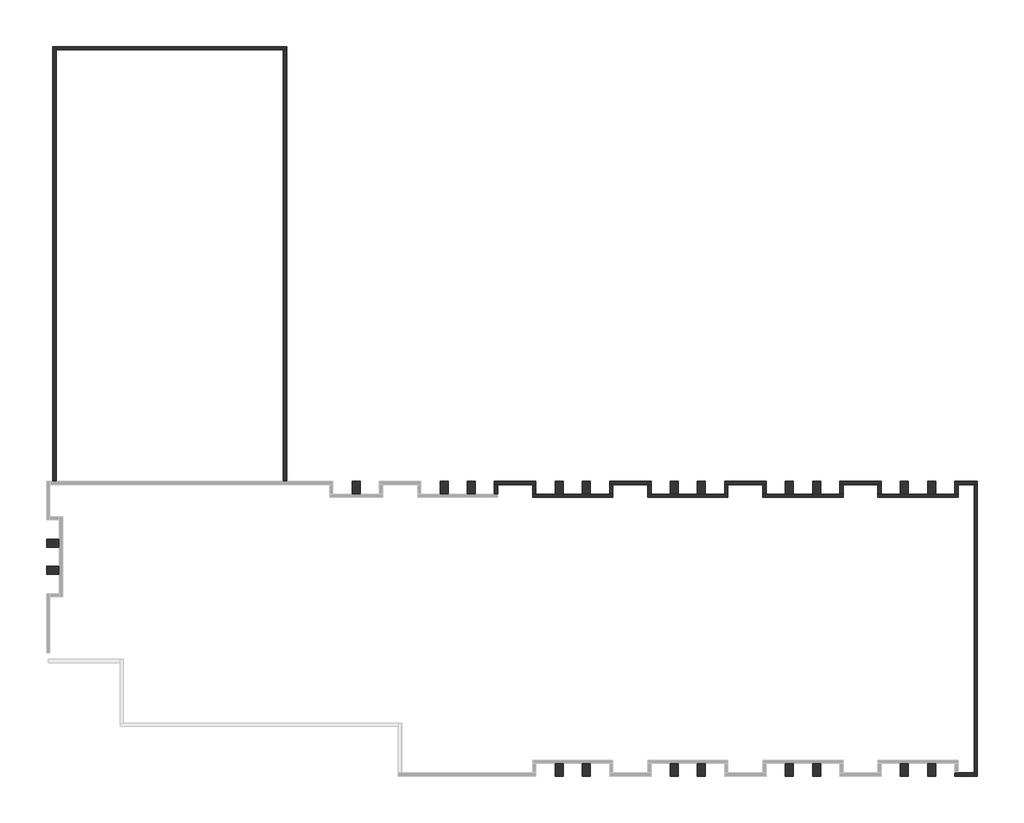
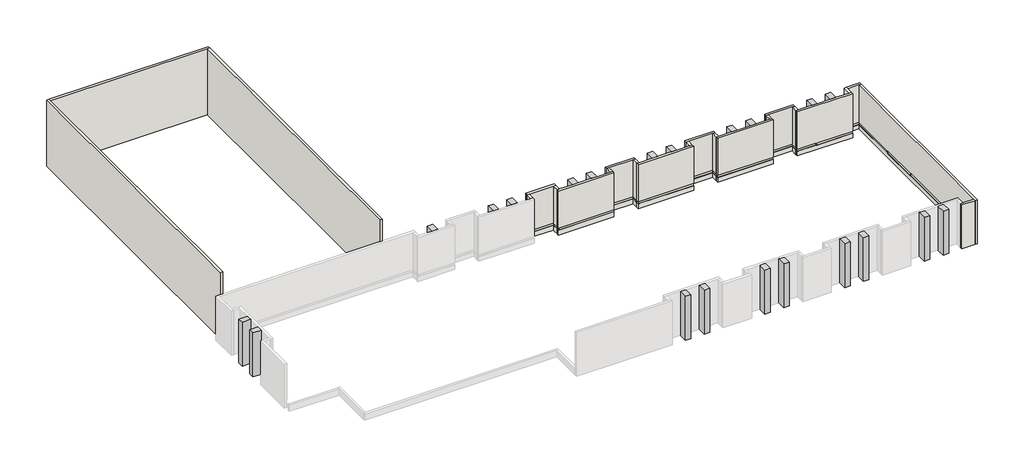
# One storey, part 2 of 2: 23 walls, 21 columns.
"""IFC4 building model written with IfcOpenShell, lengths in millimetres."""

from ifc_helpers import new_model, si_unit, frame, origin, place, context, project, spatial, polyline, outline, extrude, faceted_brep, element, save

model = new_model("IFC4")

# Units and contexts
model_context = context("Model", 3, world=origin())
ifc_project = project(units=[si_unit("LENGTHUNIT", "METRE", prefix="MILLI")], contexts=[model_context])

# Site, building, storey
site = spatial("IfcSite", under=ifc_project)
building = spatial("IfcBuilding", under=site)
storey = spatial("IfcBuildingStorey", under=building, Name="室外地坪", Elevation=-600.0)

# Columns
placement = place(None, origin())
element("IfcColumn", 1, ObjectType="矩形建筑柱 : 500 x 1000 mm", at=placement, inside=storey, context=model_context, shape_type="SweptSolid", body=[
    extrude(outline(polyline([(-27230.2182017, -7281.7926211), (-27230.2182017, -6781.7926211), (-26440.2182017, -6781.7926211), (-26440.2182017, -7281.7926211), (-27230.2182017, -7281.7926211)])), frame((0.0, 0.0, -600.0), z_axis=(0.0, 0.0, 1.0), x_axis=(1.0, 0.0, 0.0)), (0.0, 0.0, 1.0), 4200.0),
])
element("IfcColumn", 2, ObjectType="矩形建筑柱 : 500 x 1000 mm", at=placement, inside=storey, context=model_context, shape_type="SweptSolid", body=[
    extrude(outline(polyline([(-27230.2182017, -8981.7926211), (-27230.2182017, -8481.7926211), (-26440.2182017, -8481.7926211), (-26440.2182017, -8981.7926211), (-27230.2182017, -8981.7926211)])), frame((0.0, 0.0, -600.0), z_axis=(0.0, 0.0, 1.0), x_axis=(1.0, 0.0, 0.0)), (0.0, 0.0, 1.0), 4200.0),
])
element("IfcColumn", 3, ObjectType="矩形建筑柱 : 500 x 1000 mm", at=placement, inside=storey, context=model_context, shape_type="SweptSolid", body=[
    extrude(outline(polyline([(26184.7817983, -3166.7926211), (26684.7817983, -3166.7926211), (26684.7817983, -3956.7926211), (26184.7817983, -3956.7926211), (26184.7817983, -3166.7926211)])), frame((0.0, 0.0, -600.0), z_axis=(0.0, 0.0, 1.0), x_axis=(1.0, 0.0, 0.0)), (0.0, 0.0, 1.0), 4200.0),
])
element("IfcColumn", 4, ObjectType="矩形建筑柱 : 500 x 1000 mm", at=placement, inside=storey, context=model_context, shape_type="SweptSolid", body=[
    extrude(outline(polyline([(27884.7817983, -3166.7926211), (28384.7817983, -3166.7926211), (28384.7817983, -3956.7926211), (27884.7817983, -3956.7926211), (27884.7817983, -3166.7926211)])), frame((0.0, 0.0, -600.0), z_axis=(0.0, 0.0, 1.0), x_axis=(1.0, 0.0, 0.0)), (0.0, 0.0, 1.0), 4200.0),
])
element("IfcColumn", 5, ObjectType="矩形建筑柱 : 500 x 1000 mm", at=placement, inside=storey, context=model_context, shape_type="SweptSolid", body=[
    extrude(outline(polyline([(18984.7817983, -3166.7926211), (19484.7817983, -3166.7926211), (19484.7817983, -3956.7926211), (18984.7817983, -3956.7926211), (18984.7817983, -3166.7926211)])), frame((0.0, 0.0, -600.0), z_axis=(0.0, 0.0, 1.0), x_axis=(1.0, 0.0, 0.0)), (0.0, 0.0, 1.0), 4200.0),
])
element("IfcColumn", 6, ObjectType="矩形建筑柱 : 500 x 1000 mm", at=placement, inside=storey, context=model_context, shape_type="SweptSolid", body=[
    extrude(outline(polyline([(20684.7817983, -3166.7926211), (21184.7817983, -3166.7926211), (21184.7817983, -3956.7926211), (20684.7817983, -3956.7926211), (20684.7817983, -3166.7926211)])), frame((0.0, 0.0, -600.0), z_axis=(0.0, 0.0, 1.0), x_axis=(1.0, 0.0, 0.0)), (0.0, 0.0, 1.0), 4200.0),
])
element("IfcColumn", 7, ObjectType="矩形建筑柱 : 500 x 1000 mm", at=placement, inside=storey, context=model_context, shape_type="SweptSolid", body=[
    extrude(outline(polyline([(11784.7817983, -3166.7926211), (12284.7817983, -3166.7926211), (12284.7817983, -3956.7926211), (11784.7817983, -3956.7926211), (11784.7817983, -3166.7926211)])), frame((0.0, 0.0, -600.0), z_axis=(0.0, 0.0, 1.0), x_axis=(1.0, 0.0, 0.0)), (0.0, 0.0, 1.0), 4200.0),
])
element("IfcColumn", 8, ObjectType="矩形建筑柱 : 500 x 1000 mm", at=placement, inside=storey, context=model_context, shape_type="SweptSolid", body=[
    extrude(outline(polyline([(13484.7817983, -3166.7926211), (13984.7817983, -3166.7926211), (13984.7817983, -3956.7926211), (13484.7817983, -3956.7926211), (13484.7817983, -3166.7926211)])), frame((0.0, 0.0, -600.0), z_axis=(0.0, 0.0, 1.0), x_axis=(1.0, 0.0, 0.0)), (0.0, 0.0, 1.0), 4200.0),
])
element("IfcColumn", 9, ObjectType="矩形建筑柱 : 500 x 1000 mm", at=placement, inside=storey, context=model_context, shape_type="SweptSolid", body=[
    extrude(outline(polyline([(4584.7817983, -3166.7926211), (5084.7817983, -3166.7926211), (5084.7817983, -3956.7926211), (4584.7817983, -3956.7926211), (4584.7817983, -3166.7926211)])), frame((0.0, 0.0, -600.0), z_axis=(0.0, 0.0, 1.0), x_axis=(1.0, 0.0, 0.0)), (0.0, 0.0, 1.0), 4200.0),
])
element("IfcColumn", 10, ObjectType="矩形建筑柱 : 500 x 1000 mm", at=placement, inside=storey, context=model_context, shape_type="SweptSolid", body=[
    extrude(outline(polyline([(6284.7817983, -3166.7926211), (6784.7817983, -3166.7926211), (6784.7817983, -3956.7926211), (6284.7817983, -3956.7926211), (6284.7817983, -3166.7926211)])), frame((0.0, 0.0, -600.0), z_axis=(0.0, 0.0, 1.0), x_axis=(1.0, 0.0, 0.0)), (0.0, 0.0, 1.0), 4200.0),
])
element("IfcColumn", 11, ObjectType="矩形建筑柱 : 500 x 1000 mm", at=placement, inside=storey, context=model_context, shape_type="SweptSolid", body=[
    extrude(outline(polyline([(-2615.2182017, -3166.7926211), (-2115.2182017, -3166.7926211), (-2115.2182017, -3956.7926211), (-2615.2182017, -3956.7926211), (-2615.2182017, -3166.7926211)])), frame((0.0, 0.0, -600.0), z_axis=(0.0, 0.0, 1.0), x_axis=(1.0, 0.0, 0.0)), (0.0, 0.0, 1.0), 4200.0),
])
element("IfcColumn", 12, ObjectType="矩形建筑柱 : 500 x 1000 mm", at=placement, inside=storey, context=model_context, shape_type="SweptSolid", body=[
    extrude(outline(polyline([(-915.2182017, -3166.7926211), (-415.2182017, -3166.7926211), (-415.2182017, -3956.7926211), (-915.2182017, -3956.7926211), (-915.2182017, -3166.7926211)])), frame((0.0, 0.0, -600.0), z_axis=(0.0, 0.0, 1.0), x_axis=(1.0, 0.0, 0.0)), (0.0, 0.0, 1.0), 4200.0),
])
element("IfcColumn", 13, ObjectType="矩形建筑柱 : 500 x 1000 mm", at=placement, inside=storey, context=model_context, shape_type="SweptSolid", body=[
    extrude(outline(polyline([(-8115.2182017, -3166.7926211), (-7615.2182017, -3166.7926211), (-7615.2182017, -3956.7926211), (-8115.2182017, -3956.7926211), (-8115.2182017, -3166.7926211)])), frame((0.0, 0.0, -600.0), z_axis=(0.0, 0.0, 1.0), x_axis=(1.0, 0.0, 0.0)), (0.0, 0.0, 1.0), 4200.0),
])
element("IfcColumn", 14, ObjectType="矩形建筑柱 : 500 x 1000 mm", at=placement, inside=storey, context=model_context, shape_type="SweptSolid", body=[
    extrude(outline(polyline([(26684.7817983, -21596.7926211), (26184.7817983, -21596.7926211), (26184.7817983, -20806.7926211), (26684.7817983, -20806.7926211), (26684.7817983, -21596.7926211)])), frame((0.0, 0.0, -600.0), z_axis=(0.0, 0.0, 1.0), x_axis=(1.0, 0.0, 0.0)), (0.0, 0.0, 1.0), 4200.0),
])
element("IfcColumn", 15, ObjectType="矩形建筑柱 : 500 x 1000 mm", at=placement, inside=storey, context=model_context, shape_type="SweptSolid", body=[
    extrude(outline(polyline([(28384.7817983, -21596.7926211), (27884.7817983, -21596.7926211), (27884.7817983, -20806.7926211), (28384.7817983, -20806.7926211), (28384.7817983, -21596.7926211)])), frame((0.0, 0.0, -600.0), z_axis=(0.0, 0.0, 1.0), x_axis=(1.0, 0.0, 0.0)), (0.0, 0.0, 1.0), 4200.0),
])
element("IfcColumn", 16, ObjectType="矩形建筑柱 : 500 x 1000 mm", at=placement, inside=storey, context=model_context, shape_type="SweptSolid", body=[
    extrude(outline(polyline([(19484.7817983, -21596.7926211), (18984.7817983, -21596.7926211), (18984.7817983, -20806.7926211), (19484.7817983, -20806.7926211), (19484.7817983, -21596.7926211)])), frame((0.0, 0.0, -600.0), z_axis=(0.0, 0.0, 1.0), x_axis=(1.0, 0.0, 0.0)), (0.0, 0.0, 1.0), 4200.0),
])
element("IfcColumn", 17, ObjectType="矩形建筑柱 : 500 x 1000 mm", at=placement, inside=storey, context=model_context, shape_type="SweptSolid", body=[
    extrude(outline(polyline([(21184.7817983, -21596.7926211), (20684.7817983, -21596.7926211), (20684.7817983, -20806.7926211), (21184.7817983, -20806.7926211), (21184.7817983, -21596.7926211)])), frame((0.0, 0.0, -600.0), z_axis=(0.0, 0.0, 1.0), x_axis=(1.0, 0.0, 0.0)), (0.0, 0.0, 1.0), 4200.0),
])
element("IfcColumn", 18, ObjectType="矩形建筑柱 : 500 x 1000 mm", at=placement, inside=storey, context=model_context, shape_type="SweptSolid", body=[
    extrude(outline(polyline([(12284.7817983, -21596.7926211), (11784.7817983, -21596.7926211), (11784.7817983, -20806.7926211), (12284.7817983, -20806.7926211), (12284.7817983, -21596.7926211)])), frame((0.0, 0.0, -600.0), z_axis=(0.0, 0.0, 1.0), x_axis=(1.0, 0.0, 0.0)), (0.0, 0.0, 1.0), 4200.0),
])
element("IfcColumn", 19, ObjectType="矩形建筑柱 : 500 x 1000 mm", at=placement, inside=storey, context=model_context, shape_type="SweptSolid", body=[
    extrude(outline(polyline([(13984.7817983, -21596.7926211), (13484.7817983, -21596.7926211), (13484.7817983, -20806.7926211), (13984.7817983, -20806.7926211), (13984.7817983, -21596.7926211)])), frame((0.0, 0.0, -600.0), z_axis=(0.0, 0.0, 1.0), x_axis=(1.0, 0.0, 0.0)), (0.0, 0.0, 1.0), 4200.0),
])
element("IfcColumn", 20, ObjectType="矩形建筑柱 : 500 x 1000 mm", at=placement, inside=storey, context=model_context, shape_type="SweptSolid", body=[
    extrude(outline(polyline([(5084.7817983, -21596.7926211), (4584.7817983, -21596.7926211), (4584.7817983, -20806.7926211), (5084.7817983, -20806.7926211), (5084.7817983, -21596.7926211)])), frame((0.0, 0.0, -600.0), z_axis=(0.0, 0.0, 1.0), x_axis=(1.0, 0.0, 0.0)), (0.0, 0.0, 1.0), 4200.0),
])
element("IfcColumn", 21, ObjectType="矩形建筑柱 : 500 x 1000 mm", at=placement, inside=storey, context=model_context, shape_type="SweptSolid", body=[
    extrude(outline(polyline([(6784.7817983, -21596.7926211), (6284.7817983, -21596.7926211), (6284.7817983, -20806.7926211), (6784.7817983, -20806.7926211), (6784.7817983, -21596.7926211)])), frame((0.0, 0.0, -600.0), z_axis=(0.0, 0.0, 1.0), x_axis=(1.0, 0.0, 0.0)), (0.0, 0.0, 1.0), 4200.0),
])

# Walls
element("IfcWall", 22, ObjectType="F1-15cm-外牆", at=placement, inside=storey, context=model_context, shape_type="Brep", body=[
    faceted_brep([(-26620.2182017, -3166.7926211, 5700.0), (-26620.2182017, -3166.7926211, -600.0), (-26620.2182017, 23823.2073789, -600.0), (-26620.2182017, 24033.2073789, -600.0), (-26620.2182017, 24033.2073789, 5700.0), (-26620.2182017, 23823.2073789, 5700.0), (-26830.2182017, -3166.7926211, -600.0), (-26830.2182017, -3166.7926211, 5700.0), (-26830.2182017, 24033.2073789, 5700.0), (-26830.2182017, 24033.2073789, -600.0)], [[[0, 1, 2, 3, 4, 5]], [[6, 7, 8, 9]], [[3, 2, 1, 6, 9]], [[0, 5, 4, 8, 7]], [[4, 3, 9, 8]], [[0, 7, 6, 1]]]),
])
element("IfcWall", 23, ObjectType="F1-15cm-外牆", at=placement, inside=storey, context=model_context, shape_type="Brep", body=[
    faceted_brep([(-26620.2182017, 23823.2073789, -600.0), (-12410.2182017, 23823.2073789, -600.0), (-12200.2182017, 23823.2073789, -600.0), (-12200.2182017, 23823.2073789, 5700.0), (-12410.2182017, 23823.2073789, 5700.0), (-26620.2182017, 23823.2073789, 5700.0), (-26620.2182017, 24033.2073789, -600.0), (-26620.2182017, 24033.2073789, 5700.0), (-12200.2182017, 24033.2073789, 5700.0), (-12200.2182017, 24033.2073789, -600.0)], [[[0, 1, 2, 3, 4, 5]], [[6, 7, 8, 9]], [[2, 1, 0, 6, 9]], [[5, 4, 3, 8, 7]], [[0, 5, 7, 6]], [[3, 2, 9, 8]]]),
])
element("IfcWall", 24, ObjectType="F1-15cm-外牆", at=placement, inside=storey, context=model_context, shape_type="SweptSolid", body=[
    extrude(outline(polyline([(-12410.2182017, -3166.7926211), (-12410.2182017, 23823.2073789), (-12200.2182017, 23823.2073789), (-12200.2182017, -3166.7926211), (-12410.2182017, -3166.7926211)])), frame((0.0, 0.0, -600.0), z_axis=(0.0, 0.0, 1.0), x_axis=(1.0, 0.0, 0.0)), (0.0, 0.0, 1.0), 6300.0),
])
element("IfcWall", 25, ObjectType="F1-15cm-外牆", at=placement, inside=storey, context=model_context, shape_type="Brep", body=[
    faceted_brep([(30999.7817983, -21596.7926211, -600.0), (30999.7817983, -3376.7926211, -600.0), (30999.7817983, -3376.7926211, 3600.0), (30999.7817983, -21596.7926211, 3600.0), (30789.7817983, -3376.7926211, -600.0), (30789.7817983, -21386.7926211, -600.0), (30789.7817983, -21596.7926211, -600.0), (30789.7817983, -21596.7926211, 3600.0), (30789.7817983, -21386.7926211, 3600.0), (30789.7817983, -3376.7926211, 3600.0), (30789.7817983, -3376.7926211, 10.0), (30789.7817983, -7801.7926211, 10.0), (30789.7817983, -7821.7926211, 10.0), (30789.7817983, -7821.7926211, 0.0), (30789.7817983, -7821.7926211, -190.0), (30789.7817983, -3376.7926211, -190.0), (30789.7817983, -21406.7926211, -150.0), (30789.7817983, -21386.7926211, -150.0), (30789.7817983, -11541.7926211, -150.0), (30789.7817983, -11541.7926211, 0.0), (30789.7817983, -11541.7926211, 50.0), (30789.7817983, -11561.7926211, 50.0), (30789.7817983, -21386.7926211, 50.0), (30789.7817983, -21406.7926211, 50.0), (30789.7817983, -11421.7926211, -190.0), (30789.7817983, -7941.7926211, -190.0), (30789.7817983, -7941.7926211, 0.0), (30789.7817983, -7941.7926211, 10.0), (30789.7817983, -7961.7926211, 10.0), (30789.7817983, -11401.7926211, 10.0), (30789.7817983, -11421.7926211, 10.0), (30789.7817983, -11421.7926211, 0.0), (30809.7817983, -3376.7926211, -190.0), (30809.7817983, -3376.7926211, 10.0), (30809.7817983, -21406.7926211, -150.0), (30809.7817983, -11541.7926211, -150.0), (30809.7817983, -11541.7926211, 50.0), (30809.7817983, -21406.7926211, 50.0), (30809.7817983, -11421.7926211, -190.0), (30809.7817983, -7941.7926211, -190.0), (30809.7817983, -7941.7926211, 10.0), (30809.7817983, -11421.7926211, 10.0), (30809.7817983, -7821.7926211, -190.0), (30809.7817983, -7821.7926211, 10.0)], [[[0, 1, 2, 3]], [[4, 5, 6, 7, 8, 9, 10, 11, 12, 13, 14, 15], [16, 17, 18, 19, 20, 21, 22, 23], [24, 25, 26, 27, 28, 29, 30, 31]], [[1, 0, 6, 5, 4]], [[3, 2, 9, 8, 7]], [[2, 1, 4, 15, 32, 33, 10, 9]], [[0, 3, 7, 6]], [[34, 35, 18, 17, 16]], [[36, 37, 23, 22, 21, 20]], [[35, 36, 20, 19, 18]], [[35, 34, 37, 36]], [[37, 34, 16, 23]], [[38, 39, 25, 24]], [[40, 41, 30, 29, 28, 27]], [[39, 38, 41, 40]], [[41, 38, 24, 31, 30]], [[39, 40, 27, 26, 25]], [[14, 42, 32, 15]], [[33, 43, 12, 11, 10]], [[42, 43, 33, 32]], [[43, 42, 14, 13, 12]]]),
])
element("IfcWall", 26, ObjectType="F1-15cm-外牆", at=placement, inside=storey, context=model_context, shape_type="Brep", body=[
    faceted_brep([(30789.7817983, -21386.7926211, -600.0), (29794.7817983, -21386.7926211, -600.0), (29584.7817983, -21386.7926211, -600.0), (29584.7817983, -21386.7926211, 3600.0), (29794.7817983, -21386.7926211, 3600.0), (30789.7817983, -21386.7926211, 3600.0), (30789.7817983, -21386.7926211, 50.0), (29774.7817983, -21386.7926211, 50.0), (29774.7817983, -21386.7926211, -150.0), (30789.7817983, -21386.7926211, -150.0), (29584.7817983, -21596.7926211, -600.0), (30789.7817983, -21596.7926211, -600.0), (30789.7817983, -21596.7926211, 3600.0), (29584.7817983, -21596.7926211, 3600.0), (30789.7817983, -21406.7926211, -150.0), (30789.7817983, -21406.7926211, 50.0), (29774.7817983, -21406.7926211, -150.0), (29774.7817983, -21406.7926211, 50.0)], [[[0, 1, 2, 3, 4, 5, 6, 7, 8, 9]], [[10, 11, 12, 13]], [[2, 1, 0, 11, 10]], [[5, 4, 3, 13, 12]], [[5, 12, 11, 0, 9, 14, 15, 6]], [[3, 2, 10, 13]], [[8, 16, 14, 9]], [[15, 17, 7, 6]], [[16, 17, 15, 14]], [[17, 16, 8, 7]]]),
])
element("IfcWall", 27, ObjectType="F1-15cm-外牆", at=placement, inside=storey, context=model_context, shape_type="Brep", body=[
    faceted_brep([(24774.7817983, -4166.7926211, -600.0), (29794.7817983, -4166.7926211, -600.0), (29794.7817983, -4166.7926211, -190.0), (26544.7817983, -4166.7926211, -190.0), (26544.7817983, -4166.7926211, 0.0), (26544.7817983, -4166.7926211, 10.0), (26564.7817983, -4166.7926211, 10.0), (29794.7817983, -4166.7926211, 10.0), (29794.7817983, -4166.7926211, 3600.0), (24774.7817983, -4166.7926211, 3600.0), (24774.7817983, -4166.7926211, 50.0), (26404.7817983, -4166.7926211, 50.0), (26424.7817983, -4166.7926211, 50.0), (26424.7817983, -4166.7926211, 0.0), (26424.7817983, -4166.7926211, -150.0), (24774.7817983, -4166.7926211, -150.0), (29794.7817983, -3956.7926211, -600.0), (29584.7817983, -3956.7926211, -600.0), (28384.7817983, -3956.7926211, -600.0), (27884.7817983, -3956.7926211, -600.0), (26684.7817983, -3956.7926211, -600.0), (26184.7817983, -3956.7926211, -600.0), (24984.7817983, -3956.7926211, -600.0), (24774.7817983, -3956.7926211, -600.0), (24774.7817983, -3956.7926211, -150.0), (24794.7817983, -3956.7926211, -150.0), (24794.7817983, -3956.7926211, 50.0), (24774.7817983, -3956.7926211, 50.0), (24774.7817983, -3956.7926211, 3600.0), (24984.7817983, -3956.7926211, 3600.0), (26184.7817983, -3956.7926211, 3600.0), (26684.7817983, -3956.7926211, 3600.0), (27884.7817983, -3956.7926211, 3600.0), (28384.7817983, -3956.7926211, 3600.0), (29584.7817983, -3956.7926211, 3600.0), (29794.7817983, -3956.7926211, 3600.0), (29794.7817983, -3956.7926211, 10.0), (29774.7817983, -3956.7926211, 10.0), (29774.7817983, -3956.7926211, -190.0), (29794.7817983, -3956.7926211, -190.0), (26424.7817983, -4146.7926211, -150.0), (24794.7817983, -4146.7926211, -150.0), (24794.7817983, -4146.7926211, 50.0), (26424.7817983, -4146.7926211, 50.0), (29774.7817983, -4146.7926211, -190.0), (26544.7817983, -4146.7926211, -190.0), (26544.7817983, -4146.7926211, 10.0), (29774.7817983, -4146.7926211, 10.0)], [[[0, 1, 2, 3, 4, 5, 6, 7, 8, 9, 10, 11, 12, 13, 14, 15]], [[16, 17, 18, 19, 20, 21, 22, 23, 24, 25, 26, 27, 28, 29, 30, 31, 32, 33, 34, 35, 36, 37, 38, 39]], [[1, 0, 23, 22, 21, 20, 19, 18, 17, 16]], [[9, 8, 35, 34, 33, 32, 31, 30, 29, 28]], [[23, 0, 15, 24]], [[9, 28, 27, 10]], [[1, 16, 39, 2]], [[35, 8, 7, 36]], [[40, 41, 25, 24, 15, 14]], [[42, 43, 12, 11, 10, 27, 26]], [[41, 42, 26, 25]], [[41, 40, 43, 42]], [[43, 40, 14, 13, 12]], [[44, 45, 3, 2, 39, 38]], [[46, 47, 37, 36, 7, 6, 5]], [[47, 44, 38, 37]], [[45, 46, 5, 4, 3]], [[45, 44, 47, 46]]]),
])
element("IfcWall", 28, ObjectType="F1-15cm-外牆", at=placement, inside=storey, context=model_context, shape_type="SweptSolid", body=[
    extrude(outline(polyline([(-600.0, 24774.7817983), (-600.0, 24984.7817983), (3600.0, 24984.7817983), (3600.0, 24774.7817983), (50.0, 24774.7817983), (50.0, 24794.7817983), (-150.0, 24794.7817983), (-150.0, 24774.7817983), (-600.0, 24774.7817983)])), frame((0.0, -3956.7926211, 0.0), z_axis=(0.0, 1.0, 0.0), x_axis=(0.0, 0.0, 1.0)), (0.0, 0.0, 1.0), 580.0),
])
element("IfcWall", 29, ObjectType="F1-15cm-外牆", at=placement, inside=storey, context=model_context, shape_type="Brep", body=[
    faceted_brep([(29794.7817983, -3956.7926211, -600.0), (29794.7817983, -3376.7926211, -600.0), (29794.7817983, -3166.7926211, -600.0), (29794.7817983, -3166.7926211, 3600.0), (29794.7817983, -3376.7926211, 3600.0), (29794.7817983, -3956.7926211, 3600.0), (29794.7817983, -3956.7926211, 10.0), (29794.7817983, -3356.7926211, 10.0), (29794.7817983, -3356.7926211, -190.0), (29794.7817983, -3956.7926211, -190.0), (29584.7817983, -3166.7926211, -600.0), (29584.7817983, -3956.7926211, -600.0), (29584.7817983, -3956.7926211, 3600.0), (29584.7817983, -3166.7926211, 3600.0), (29774.7817983, -3956.7926211, -190.0), (29774.7817983, -3956.7926211, 10.0), (29774.7817983, -3356.7926211, -190.0), (29774.7817983, -3356.7926211, 10.0)], [[[0, 1, 2, 3, 4, 5, 6, 7, 8, 9]], [[10, 11, 12, 13]], [[2, 1, 0, 11, 10]], [[5, 4, 3, 13, 12]], [[5, 12, 11, 0, 9, 14, 15, 6]], [[3, 2, 10, 13]], [[8, 16, 14, 9]], [[15, 17, 7, 6]], [[16, 17, 15, 14]], [[17, 16, 8, 7]]]),
])
element("IfcWall", 30, ObjectType="F1-15cm-外牆", at=placement, inside=storey, context=model_context, shape_type="Brep", body=[
    faceted_brep([(29794.7817983, -3376.7926211, -600.0), (30789.7817983, -3376.7926211, -600.0), (30999.7817983, -3376.7926211, -600.0), (30999.7817983, -3376.7926211, 3600.0), (30789.7817983, -3376.7926211, 3600.0), (29794.7817983, -3376.7926211, 3600.0), (29794.7817983, -3376.7926211, 10.0), (30789.7817983, -3376.7926211, 10.0), (30809.7817983, -3376.7926211, 10.0), (30809.7817983, -3376.7926211, -190.0), (30789.7817983, -3376.7926211, -190.0), (29794.7817983, -3376.7926211, -190.0), (30999.7817983, -3166.7926211, -600.0), (29794.7817983, -3166.7926211, -600.0), (29794.7817983, -3166.7926211, 3600.0), (30999.7817983, -3166.7926211, 3600.0), (29794.7817983, -3356.7926211, -190.0), (29794.7817983, -3356.7926211, 10.0), (30809.7817983, -3356.7926211, -190.0), (30809.7817983, -3356.7926211, 10.0)], [[[0, 1, 2, 3, 4, 5, 6, 7, 8, 9, 10, 11]], [[12, 13, 14, 15]], [[2, 1, 0, 13, 12]], [[5, 4, 3, 15, 14]], [[3, 2, 12, 15]], [[5, 14, 13, 0, 11, 16, 17, 6]], [[9, 18, 16, 11, 10]], [[17, 19, 8, 7, 6]], [[18, 19, 17, 16]], [[19, 18, 9, 8]]]),
])
element("IfcWall", 31, ObjectType="F1-15cm-外牆", at=placement, inside=storey, context=model_context, shape_type="Brep", body=[
    faceted_brep([(17574.7817983, -4166.7926211, -600.0), (22594.7817983, -4166.7926211, -600.0), (22594.7817983, -4166.7926211, -150.0), (17574.7817983, -4166.7926211, -150.0), (22594.7817983, -4166.7926211, 3600.0), (17574.7817983, -4166.7926211, 3600.0), (17574.7817983, -4166.7926211, 50.0), (22594.7817983, -4166.7926211, 50.0), (22594.7817983, -3956.7926211, -600.0), (22384.7817983, -3956.7926211, -600.0), (21184.7817983, -3956.7926211, -600.0), (20684.7817983, -3956.7926211, -600.0), (19484.7817983, -3956.7926211, -600.0), (18984.7817983, -3956.7926211, -600.0), (17784.7817983, -3956.7926211, -600.0), (17574.7817983, -3956.7926211, -600.0), (17574.7817983, -3956.7926211, -150.0), (17594.7817983, -3956.7926211, -150.0), (17594.7817983, -3956.7926211, 50.0), (17574.7817983, -3956.7926211, 50.0), (17574.7817983, -3956.7926211, 3600.0), (17784.7817983, -3956.7926211, 3600.0), (18984.7817983, -3956.7926211, 3600.0), (19484.7817983, -3956.7926211, 3600.0), (20684.7817983, -3956.7926211, 3600.0), (21184.7817983, -3956.7926211, 3600.0), (22384.7817983, -3956.7926211, 3600.0), (22594.7817983, -3956.7926211, 3600.0), (22594.7817983, -3956.7926211, 50.0), (22574.7817983, -3956.7926211, 50.0), (22574.7817983, -3956.7926211, -150.0), (22594.7817983, -3956.7926211, -150.0), (22574.7817983, -4146.7926211, -150.0), (17594.7817983, -4146.7926211, -150.0), (17594.7817983, -4146.7926211, 50.0), (22574.7817983, -4146.7926211, 50.0)], [[[0, 1, 2, 3]], [[4, 5, 6, 7]], [[8, 9, 10, 11, 12, 13, 14, 15, 16, 17, 18, 19, 20, 21, 22, 23, 24, 25, 26, 27, 28, 29, 30, 31]], [[1, 0, 15, 14, 13, 12, 11, 10, 9, 8]], [[5, 4, 27, 26, 25, 24, 23, 22, 21, 20]], [[15, 0, 3, 16]], [[5, 20, 19, 6]], [[1, 8, 31, 2]], [[27, 4, 7, 28]], [[32, 33, 17, 16, 3, 2, 31, 30]], [[34, 35, 29, 28, 7, 6, 19, 18]], [[33, 34, 18, 17]], [[33, 32, 35, 34]], [[35, 32, 30, 29]]]),
])
element("IfcWall", 32, ObjectType="F1-15cm-外牆", at=placement, inside=storey, context=model_context, shape_type="SweptSolid", body=[
    extrude(outline(polyline([(-600.0, 17574.7817983), (-600.0, 17784.7817983), (3600.0, 17784.7817983), (3600.0, 17574.7817983), (50.0, 17574.7817983), (50.0, 17594.7817983), (-150.0, 17594.7817983), (-150.0, 17574.7817983), (-600.0, 17574.7817983)])), frame((0.0, -3956.7926211, 0.0), z_axis=(0.0, 1.0, 0.0), x_axis=(0.0, 0.0, 1.0)), (0.0, 0.0, 1.0), 580.0),
])
element("IfcWall", 33, ObjectType="F1-15cm-外牆", at=placement, inside=storey, context=model_context, shape_type="SweptSolid", body=[
    extrude(outline(polyline([(3600.0, 22594.7817983), (3600.0, 22384.7817983), (-600.0, 22384.7817983), (-600.0, 22594.7817983), (-150.0, 22594.7817983), (-150.0, 22574.7817983), (50.0, 22574.7817983), (50.0, 22594.7817983), (3600.0, 22594.7817983)])), frame((0.0, -3956.7926211, 0.0), z_axis=(0.0, 1.0, 0.0), x_axis=(0.0, 0.0, 1.0)), (0.0, 0.0, 1.0), 580.0),
])
element("IfcWall", 34, ObjectType="F1-15cm-外牆", at=placement, inside=storey, context=model_context, shape_type="Brep", body=[
    faceted_brep([(10374.7817983, -4166.7926211, -600.0), (15394.7817983, -4166.7926211, -600.0), (15394.7817983, -4166.7926211, -150.0), (10374.7817983, -4166.7926211, -150.0), (15394.7817983, -4166.7926211, 3600.0), (10374.7817983, -4166.7926211, 3600.0), (10374.7817983, -4166.7926211, 50.0), (15394.7817983, -4166.7926211, 50.0), (15394.7817983, -3956.7926211, -600.0), (15184.7817983, -3956.7926211, -600.0), (13984.7817983, -3956.7926211, -600.0), (13484.7817983, -3956.7926211, -600.0), (12284.7817983, -3956.7926211, -600.0), (11784.7817983, -3956.7926211, -600.0), (10584.7817983, -3956.7926211, -600.0), (10374.7817983, -3956.7926211, -600.0), (10374.7817983, -3956.7926211, -150.0), (10394.7817983, -3956.7926211, -150.0), (10394.7817983, -3956.7926211, 50.0), (10374.7817983, -3956.7926211, 50.0), (10374.7817983, -3956.7926211, 3600.0), (10584.7817983, -3956.7926211, 3600.0), (11784.7817983, -3956.7926211, 3600.0), (12284.7817983, -3956.7926211, 3600.0), (13484.7817983, -3956.7926211, 3600.0), (13984.7817983, -3956.7926211, 3600.0), (15184.7817983, -3956.7926211, 3600.0), (15394.7817983, -3956.7926211, 3600.0), (15394.7817983, -3956.7926211, 50.0), (15374.7817983, -3956.7926211, 50.0), (15374.7817983, -3956.7926211, -150.0), (15394.7817983, -3956.7926211, -150.0), (15374.7817983, -4146.7926211, -150.0), (10394.7817983, -4146.7926211, -150.0), (10394.7817983, -4146.7926211, 50.0), (15374.7817983, -4146.7926211, 50.0)], [[[0, 1, 2, 3]], [[4, 5, 6, 7]], [[8, 9, 10, 11, 12, 13, 14, 15, 16, 17, 18, 19, 20, 21, 22, 23, 24, 25, 26, 27, 28, 29, 30, 31]], [[1, 0, 15, 14, 13, 12, 11, 10, 9, 8]], [[5, 4, 27, 26, 25, 24, 23, 22, 21, 20]], [[15, 0, 3, 16]], [[5, 20, 19, 6]], [[1, 8, 31, 2]], [[27, 4, 7, 28]], [[32, 33, 17, 16, 3, 2, 31, 30]], [[34, 35, 29, 28, 7, 6, 19, 18]], [[33, 34, 18, 17]], [[33, 32, 35, 34]], [[35, 32, 30, 29]]]),
])
element("IfcWall", 35, ObjectType="F1-15cm-外牆", at=placement, inside=storey, context=model_context, shape_type="SweptSolid", body=[
    extrude(outline(polyline([(-600.0, 10374.7817983), (-600.0, 10584.7817983), (3600.0, 10584.7817983), (3600.0, 10374.7817983), (50.0, 10374.7817983), (50.0, 10394.7817983), (-150.0, 10394.7817983), (-150.0, 10374.7817983), (-600.0, 10374.7817983)])), frame((0.0, -3956.7926211, 0.0), z_axis=(0.0, 1.0, 0.0), x_axis=(0.0, 0.0, 1.0)), (0.0, 0.0, 1.0), 580.0),
])
element("IfcWall", 36, ObjectType="F1-15cm-外牆", at=placement, inside=storey, context=model_context, shape_type="SweptSolid", body=[
    extrude(outline(polyline([(3600.0, 15394.7817983), (3600.0, 15184.7817983), (-600.0, 15184.7817983), (-600.0, 15394.7817983), (-150.0, 15394.7817983), (-150.0, 15374.7817983), (50.0, 15374.7817983), (50.0, 15394.7817983), (3600.0, 15394.7817983)])), frame((0.0, -3956.7926211, 0.0), z_axis=(0.0, 1.0, 0.0), x_axis=(0.0, 0.0, 1.0)), (0.0, 0.0, 1.0), 580.0),
])
element("IfcWall", 37, ObjectType="F1-15cm-外牆", at=placement, inside=storey, context=model_context, shape_type="Brep", body=[
    faceted_brep([(3174.7817983, -4166.7926211, -600.0), (8194.7817983, -4166.7926211, -600.0), (8194.7817983, -4166.7926211, -150.0), (3174.7817983, -4166.7926211, -150.0), (8194.7817983, -4166.7926211, 3600.0), (3174.7817983, -4166.7926211, 3600.0), (3174.7817983, -4166.7926211, 50.0), (8194.7817983, -4166.7926211, 50.0), (8194.7817983, -3956.7926211, -600.0), (7984.7817983, -3956.7926211, -600.0), (6784.7817983, -3956.7926211, -600.0), (6284.7817983, -3956.7926211, -600.0), (5084.7817983, -3956.7926211, -600.0), (4584.7817983, -3956.7926211, -600.0), (3384.7817983, -3956.7926211, -600.0), (3174.7817983, -3956.7926211, -600.0), (3174.7817983, -3956.7926211, -150.0), (3194.7817983, -3956.7926211, -150.0), (3194.7817983, -3956.7926211, 50.0), (3174.7817983, -3956.7926211, 50.0), (3174.7817983, -3956.7926211, 3600.0), (3384.7817983, -3956.7926211, 3600.0), (4584.7817983, -3956.7926211, 3600.0), (5084.7817983, -3956.7926211, 3600.0), (6284.7817983, -3956.7926211, 3600.0), (6784.7817983, -3956.7926211, 3600.0), (7984.7817983, -3956.7926211, 3600.0), (8194.7817983, -3956.7926211, 3600.0), (8194.7817983, -3956.7926211, 50.0), (8174.7817983, -3956.7926211, 50.0), (8174.7817983, -3956.7926211, -150.0), (8194.7817983, -3956.7926211, -150.0), (8174.7817983, -4146.7926211, -150.0), (3194.7817983, -4146.7926211, -150.0), (3194.7817983, -4146.7926211, 50.0), (8174.7817983, -4146.7926211, 50.0)], [[[0, 1, 2, 3]], [[4, 5, 6, 7]], [[8, 9, 10, 11, 12, 13, 14, 15, 16, 17, 18, 19, 20, 21, 22, 23, 24, 25, 26, 27, 28, 29, 30, 31]], [[1, 0, 15, 14, 13, 12, 11, 10, 9, 8]], [[5, 4, 27, 26, 25, 24, 23, 22, 21, 20]], [[15, 0, 3, 16]], [[5, 20, 19, 6]], [[1, 8, 31, 2]], [[27, 4, 7, 28]], [[32, 33, 17, 16, 3, 2, 31, 30]], [[34, 35, 29, 28, 7, 6, 19, 18]], [[33, 34, 18, 17]], [[33, 32, 35, 34]], [[35, 32, 30, 29]]]),
])
element("IfcWall", 38, ObjectType="F1-15cm-外牆", at=placement, inside=storey, context=model_context, shape_type="SweptSolid", body=[
    extrude(outline(polyline([(-600.0, 3174.7817983), (-600.0, 3384.7817983), (3600.0, 3384.7817983), (3600.0, 3174.7817983), (50.0, 3174.7817983), (50.0, 3194.7817983), (-150.0, 3194.7817983), (-150.0, 3174.7817983), (-600.0, 3174.7817983)])), frame((0.0, -3956.7926211, 0.0), z_axis=(0.0, 1.0, 0.0), x_axis=(0.0, 0.0, 1.0)), (0.0, 0.0, 1.0), 580.0),
])
element("IfcWall", 39, ObjectType="F1-15cm-外牆", at=placement, inside=storey, context=model_context, shape_type="SweptSolid", body=[
    extrude(outline(polyline([(3600.0, 8194.7817983), (3600.0, 7984.7817983), (-600.0, 7984.7817983), (-600.0, 8194.7817983), (-150.0, 8194.7817983), (-150.0, 8174.7817983), (50.0, 8174.7817983), (50.0, 8194.7817983), (3600.0, 8194.7817983)])), frame((0.0, -3956.7926211, 0.0), z_axis=(0.0, 1.0, 0.0), x_axis=(0.0, 0.0, 1.0)), (0.0, 0.0, 1.0), 580.0),
])
element("IfcWall", 40, ObjectType="F1-15cm-外牆", at=placement, inside=storey, context=model_context, shape_type="SweptSolid", body=[
    extrude(outline(polyline([(3600.0, 994.7817983), (3600.0, 784.7817983), (-600.0, 784.7817983), (-600.0, 994.7817983), (-150.0, 994.7817983), (-150.0, 974.7817983), (50.0, 974.7817983), (50.0, 994.7817983), (3600.0, 994.7817983)])), frame((0.0, -3956.7926211, 0.0), z_axis=(0.0, 1.0, 0.0), x_axis=(0.0, 0.0, 1.0)), (0.0, 0.0, 1.0), 580.0),
])
element("IfcWall", 41, ObjectType="F1-15cm-外牆", at=placement, inside=storey, context=model_context, shape_type="Brep", body=[
    faceted_brep([(22384.7817983, -3376.7926211, -600.0), (22594.7817983, -3376.7926211, -600.0), (24774.7817983, -3376.7926211, -600.0), (24984.7817983, -3376.7926211, -600.0), (24984.7817983, -3376.7926211, 3600.0), (24774.7817983, -3376.7926211, 3600.0), (22594.7817983, -3376.7926211, 3600.0), (22384.7817983, -3376.7926211, 3600.0), (24794.7817983, -3376.7926211, -150.0), (24774.7817983, -3376.7926211, -150.0), (22594.7817983, -3376.7926211, -150.0), (22574.7817983, -3376.7926211, -150.0), (22574.7817983, -3376.7926211, 50.0), (22594.7817983, -3376.7926211, 50.0), (24774.7817983, -3376.7926211, 50.0), (24794.7817983, -3376.7926211, 50.0), (24984.7817983, -3166.7926211, -600.0), (22384.7817983, -3166.7926211, -600.0), (22384.7817983, -3166.7926211, 3600.0), (24984.7817983, -3166.7926211, 3600.0), (24794.7817983, -3356.7926211, -150.0), (22574.7817983, -3356.7926211, -150.0), (22574.7817983, -3356.7926211, 50.0), (24794.7817983, -3356.7926211, 50.0)], [[[0, 1, 2, 3, 4, 5, 6, 7], [8, 9, 10, 11, 12, 13, 14, 15]], [[16, 17, 18, 19]], [[3, 2, 1, 0, 17, 16]], [[7, 6, 5, 4, 19, 18]], [[4, 3, 16, 19]], [[0, 7, 18, 17]], [[20, 21, 11, 10, 9, 8]], [[22, 23, 15, 14, 13, 12]], [[21, 22, 12, 11]], [[21, 20, 23, 22]], [[23, 20, 8, 15]]]),
])
element("IfcWall", 42, ObjectType="F1-15cm-外牆", at=placement, inside=storey, context=model_context, shape_type="Brep", body=[
    faceted_brep([(15184.7817983, -3376.7926211, -600.0), (15394.7817983, -3376.7926211, -600.0), (17574.7817983, -3376.7926211, -600.0), (17784.7817983, -3376.7926211, -600.0), (17784.7817983, -3376.7926211, 3600.0), (17574.7817983, -3376.7926211, 3600.0), (15394.7817983, -3376.7926211, 3600.0), (15184.7817983, -3376.7926211, 3600.0), (17594.7817983, -3376.7926211, -150.0), (17574.7817983, -3376.7926211, -150.0), (15394.7817983, -3376.7926211, -150.0), (15374.7817983, -3376.7926211, -150.0), (15374.7817983, -3376.7926211, 50.0), (15394.7817983, -3376.7926211, 50.0), (17574.7817983, -3376.7926211, 50.0), (17594.7817983, -3376.7926211, 50.0), (17784.7817983, -3166.7926211, -600.0), (15184.7817983, -3166.7926211, -600.0), (15184.7817983, -3166.7926211, 3600.0), (17784.7817983, -3166.7926211, 3600.0), (17594.7817983, -3356.7926211, -150.0), (15374.7817983, -3356.7926211, -150.0), (15374.7817983, -3356.7926211, 50.0), (17594.7817983, -3356.7926211, 50.0)], [[[0, 1, 2, 3, 4, 5, 6, 7], [8, 9, 10, 11, 12, 13, 14, 15]], [[16, 17, 18, 19]], [[3, 2, 1, 0, 17, 16]], [[7, 6, 5, 4, 19, 18]], [[4, 3, 16, 19]], [[0, 7, 18, 17]], [[20, 21, 11, 10, 9, 8]], [[22, 23, 15, 14, 13, 12]], [[21, 22, 12, 11]], [[21, 20, 23, 22]], [[23, 20, 8, 15]]]),
])
element("IfcWall", 43, ObjectType="F1-15cm-外牆", at=placement, inside=storey, context=model_context, shape_type="Brep", body=[
    faceted_brep([(7984.7817983, -3376.7926211, -600.0), (8194.7817983, -3376.7926211, -600.0), (10374.7817983, -3376.7926211, -600.0), (10584.7817983, -3376.7926211, -600.0), (10584.7817983, -3376.7926211, 3600.0), (10374.7817983, -3376.7926211, 3600.0), (8194.7817983, -3376.7926211, 3600.0), (7984.7817983, -3376.7926211, 3600.0), (10394.7817983, -3376.7926211, -150.0), (10374.7817983, -3376.7926211, -150.0), (8194.7817983, -3376.7926211, -150.0), (8174.7817983, -3376.7926211, -150.0), (8174.7817983, -3376.7926211, 50.0), (8194.7817983, -3376.7926211, 50.0), (10374.7817983, -3376.7926211, 50.0), (10394.7817983, -3376.7926211, 50.0), (10584.7817983, -3166.7926211, -600.0), (7984.7817983, -3166.7926211, -600.0), (7984.7817983, -3166.7926211, 3600.0), (10584.7817983, -3166.7926211, 3600.0), (10394.7817983, -3356.7926211, -150.0), (8174.7817983, -3356.7926211, -150.0), (8174.7817983, -3356.7926211, 50.0), (10394.7817983, -3356.7926211, 50.0)], [[[0, 1, 2, 3, 4, 5, 6, 7], [8, 9, 10, 11, 12, 13, 14, 15]], [[16, 17, 18, 19]], [[3, 2, 1, 0, 17, 16]], [[7, 6, 5, 4, 19, 18]], [[4, 3, 16, 19]], [[0, 7, 18, 17]], [[20, 21, 11, 10, 9, 8]], [[22, 23, 15, 14, 13, 12]], [[21, 22, 12, 11]], [[21, 20, 23, 22]], [[23, 20, 8, 15]]]),
])
element("IfcWall", 44, ObjectType="F1-15cm-外牆", at=placement, inside=storey, context=model_context, shape_type="Brep", body=[
    faceted_brep([(784.7817983, -3376.7926211, -600.0), (994.7817983, -3376.7926211, -600.0), (3174.7817983, -3376.7926211, -600.0), (3384.7817983, -3376.7926211, -600.0), (3384.7817983, -3376.7926211, 3600.0), (3174.7817983, -3376.7926211, 3600.0), (994.7817983, -3376.7926211, 3600.0), (784.7817983, -3376.7926211, 3600.0), (3194.7817983, -3376.7926211, -150.0), (3174.7817983, -3376.7926211, -150.0), (994.7817983, -3376.7926211, -150.0), (974.7817983, -3376.7926211, -150.0), (974.7817983, -3376.7926211, 50.0), (994.7817983, -3376.7926211, 50.0), (3174.7817983, -3376.7926211, 50.0), (3194.7817983, -3376.7926211, 50.0), (3384.7817983, -3166.7926211, -600.0), (784.7817983, -3166.7926211, -600.0), (784.7817983, -3166.7926211, 3600.0), (3384.7817983, -3166.7926211, 3600.0), (3194.7817983, -3356.7926211, -150.0), (974.7817983, -3356.7926211, -150.0), (974.7817983, -3356.7926211, 50.0), (3194.7817983, -3356.7926211, 50.0)], [[[0, 1, 2, 3, 4, 5, 6, 7], [8, 9, 10, 11, 12, 13, 14, 15]], [[16, 17, 18, 19]], [[3, 2, 1, 0, 17, 16]], [[7, 6, 5, 4, 19, 18]], [[4, 3, 16, 19]], [[0, 7, 18, 17]], [[20, 21, 11, 10, 9, 8]], [[22, 23, 15, 14, 13, 12]], [[21, 22, 12, 11]], [[21, 20, 23, 22]], [[23, 20, 8, 15]]]),
])

save(model, "model.ifc")
